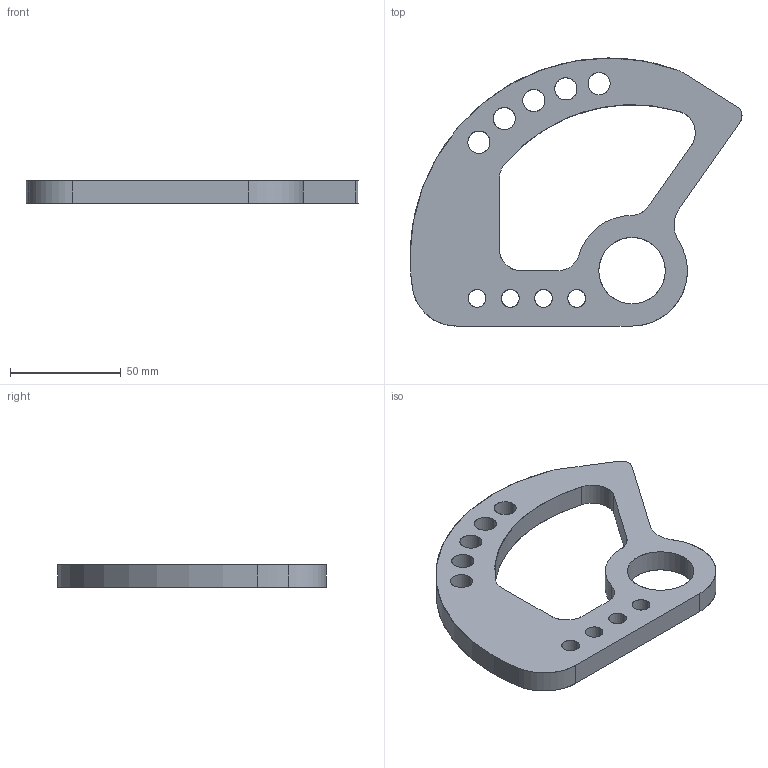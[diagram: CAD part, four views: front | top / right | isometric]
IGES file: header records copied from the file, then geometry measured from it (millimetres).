
Start section: SolidWorks IGES file using analytic representation for surfaces
Global section: file name: E:\Nouveau dossier\tarek\mécaniquee\Solide\TP0 FAO\EX18.IGS; native system: SolidWorks 2013; preprocessor: SolidWorks 2013; author: LENOVO; date: 181002.233806; units: millimetre
Bounding box: 149.99 x 121.12 x 10 mm (x, y, z)
Surface area: 26792.4 mm2 (no closed solid volume)
Topology: 0 solids, 0 shells, 43 faces, 1030 edges, 1030 vertices
Faces by surface type: revolution 35, bspline 8
